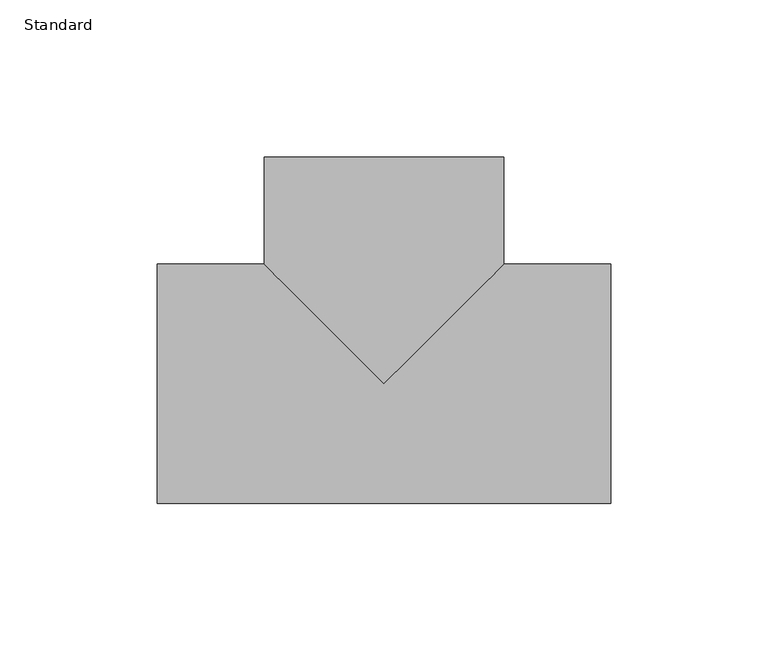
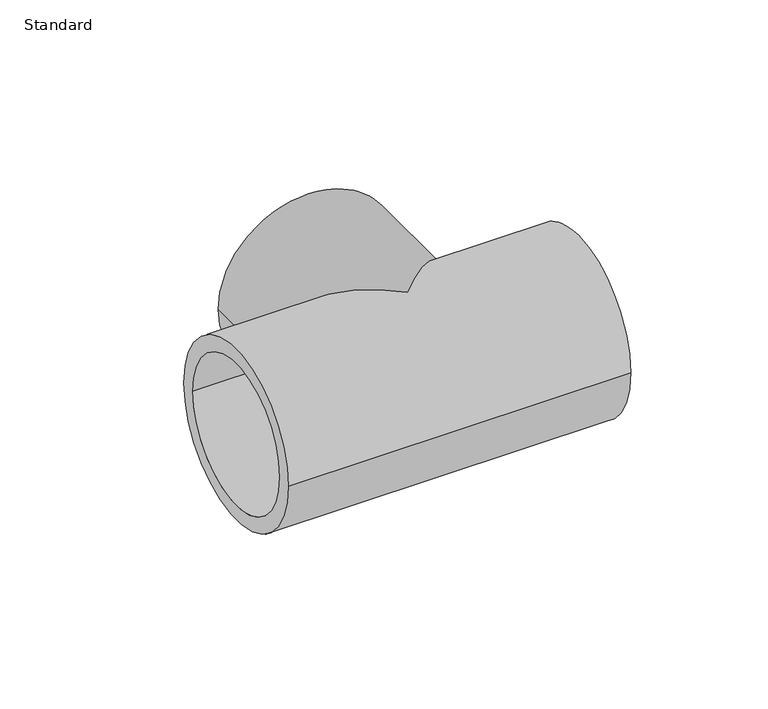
"""IFC4 building model written with IfcOpenShell, lengths in millimetres: pipe fitting geometry, Durapipe_PipeFitting_PVC_Tee90degEqual : Standard."""

from ifc_helpers import new_model, si_unit, frame, origin, place, context, project, spatial, polyline, circle_curve, ellipse_curve, source, transform, mapped, element, save
from ifc_brep_helpers import plane_surface, cylinder_surface, revolved_surface, advanced_brep


def standard_e05e3457(model_context):
    return source(origin(), model_context, "Body", "AdvancedBrep", [
        advanced_brep(
        [(-38.0, 72.0, 0.0), (38.0, 72.0, 0.0), (-31.5, 72.0, 0.0), (31.5, 72.0, 0.0), (-38.0, 38.0, 0.0), (0.0, 0.0, 38.0), (38.0, 38.0, 0.0), (0.0, 0.0, -38.0), (-72.0, -38.0, 0.0), (-72.0, 38.0, 0.0), (-72.0, -31.5, 0.0), (-72.0, 31.5, 0.0), (72.0, -38.0, 0.0), (72.0, 38.0, 0.0), (72.0, 31.5, 0.0), (72.0, -31.5, 0.0), (31.5, 34.0, 0.0), (-31.5, 34.0, 0.0), (0.0, 34.0, 0.0), (34.0, -31.5, 0.0), (34.0, 31.5, 0.0), (34.0, 0.0, 0.0), (-34.0, -31.5, 0.0), (-34.0, 31.5, 0.0), (-34.0, 0.0, 0.0)],
        [
            (0, 1, circle_curve(frame((0.0, 72.0, 0.0), z_axis=(0.0, 1.0, 0.0), x_axis=(1.0, 0.0, 0.0)), 38.0)),
            (1, 0, circle_curve(frame((0.0, 72.0, 0.0), z_axis=(0.0, 1.0, 0.0), x_axis=(1.0, 0.0, 0.0)), 38.0)),
            (2, 3, circle_curve(frame((0.0, 72.0, 0.0), z_axis=(0.0, -1.0, 0.0), x_axis=(-1.0, 0.0, 0.0)), 31.5)),
            (3, 2, circle_curve(frame((0.0, 72.0, 0.0), z_axis=(0.0, -1.0, 0.0), x_axis=(-1.0, 0.0, 0.0)), 31.5)),
            (0, 4),
            (4, 5, ellipse_curve(frame((0.0, 0.0, 0.0), z_axis=(0.7071067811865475, 0.7071067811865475, 0.0), x_axis=(-0.7071067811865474, 0.7071067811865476, 0.0)), 53.7401154, 38.0)),
            (5, 6, ellipse_curve(frame((0.0, 0.0, 0.0), z_axis=(-0.7071067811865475, 0.7071067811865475, 0.0), x_axis=(0.7071067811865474, 0.7071067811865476, 0.0)), 53.7401154, 38.0)),
            (6, 1),
            (6, 7, ellipse_curve(frame((0.0, 0.0, 0.0), z_axis=(-0.7071067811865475, 0.7071067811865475, 0.0), x_axis=(0.7071067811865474, 0.7071067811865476, 0.0)), 53.7401154, 38.0)),
            (7, 4, ellipse_curve(frame((0.0, 0.0, 0.0), z_axis=(0.7071067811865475, 0.7071067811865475, 0.0), x_axis=(-0.7071067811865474, 0.7071067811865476, 0.0)), 53.7401154, 38.0)),
            (8, 9, circle_curve(frame((-72.0, 0.0, 0.0), z_axis=(-1.0, 0.0, 0.0), x_axis=(0.0, 1.0, 0.0)), 38.0)),
            (9, 8, circle_curve(frame((-72.0, 0.0, 0.0), z_axis=(-1.0, 0.0, 0.0), x_axis=(0.0, 1.0, 0.0)), 38.0)),
            (10, 11, circle_curve(frame((-72.0, 0.0, 0.0), z_axis=(1.0, 0.0, 0.0), x_axis=(0.0, 1.0, 0.0)), 31.5)),
            (11, 10, circle_curve(frame((-72.0, 0.0, 0.0), z_axis=(1.0, 0.0, 0.0), x_axis=(0.0, 1.0, 0.0)), 31.5)),
            (12, 13, circle_curve(frame((72.0, 0.0, 0.0), z_axis=(1.0, 0.0, 0.0), x_axis=(0.0, 1.0, 0.0)), 38.0)),
            (13, 12, circle_curve(frame((72.0, 0.0, 0.0), z_axis=(1.0, 0.0, 0.0), x_axis=(0.0, 1.0, 0.0)), 38.0)),
            (14, 15, circle_curve(frame((72.0, 0.0, 0.0), z_axis=(-1.0, 0.0, 0.0), x_axis=(0.0, 1.0, 0.0)), 31.5)),
            (15, 14, circle_curve(frame((72.0, 0.0, 0.0), z_axis=(-1.0, 0.0, 0.0), x_axis=(0.0, 1.0, 0.0)), 31.5)),
            (8, 12),
            (13, 6),
            (4, 9),
            (16, 3),
            (2, 17),
            (17, 16, circle_curve(frame((0.0, 34.0, 0.0), z_axis=(0.0, -1.0, 0.0), x_axis=(-1.0, 0.0, 0.0)), 31.5)),
            (16, 17, circle_curve(frame((0.0, 34.0, 0.0), z_axis=(0.0, -1.0, 0.0), x_axis=(-1.0, 0.0, 0.0)), 31.5)),
            (17, 18),
            (18, 16),
            (19, 15),
            (14, 20),
            (20, 19, circle_curve(frame((34.0, 0.0, 0.0), z_axis=(-1.0, 0.0, 0.0), x_axis=(0.0, 1.0, 0.0)), 31.5)),
            (19, 20, circle_curve(frame((34.0, 0.0, 0.0), z_axis=(-1.0, 0.0, 0.0), x_axis=(0.0, 1.0, 0.0)), 31.5)),
            (20, 21),
            (21, 19),
            (10, 22),
            (22, 23, circle_curve(frame((-34.0, 0.0, 0.0), z_axis=(1.0, 0.0, 0.0), x_axis=(0.0, 1.0, 0.0)), 31.5)),
            (23, 11),
            (23, 22, circle_curve(frame((-34.0, 0.0, 0.0), z_axis=(1.0, 0.0, 0.0), x_axis=(0.0, 1.0, 0.0)), 31.5)),
            (22, 24),
            (24, 23),
        ],
        [
            plane_surface(frame((0.0, 72.0, 0.0), z_axis=(0.0, 1.0, 0.0), x_axis=(0.0, 0.0, 1.0))),
            cylinder_surface(frame((0.0, 72.0, 0.0), z_axis=(0.0, 1.0, 0.0), x_axis=(1.0, 0.0, 0.0)), 38.0),
            plane_surface(frame((-72.0, 0.0, 0.0), z_axis=(-1.0, 0.0, 0.0), x_axis=(0.0, 0.0, 1.0))),
            plane_surface(frame((72.0, 0.0, 0.0), z_axis=(1.0, 0.0, 0.0), x_axis=(0.0, 0.0, 1.0))),
            cylinder_surface(frame((-72.0, 0.0, 0.0), z_axis=(-1.0, 0.0, 0.0), x_axis=(0.0, 1.0, 0.0)), 38.0),
            revolved_surface(polyline([(-31.5, 34.0, 0.0), (-31.5, 72.0, 0.0)]), (0.0, 2047.0, 0.0), (0.0, -1.0, 0.0)),
            plane_surface(frame((0.0, 34.0, 0.0), z_axis=(0.0, 1.0, 0.0), x_axis=(-1.0, 0.0, 0.0))),
            revolved_surface(polyline([(34.0, 31.5, 0.0), (72.0, 31.5, 0.0)]), (2048.5, 0.0, 0.0), (-1.0, 0.0, 0.0)),
            plane_surface(frame((34.0, 0.0, 0.0), z_axis=(1.0, 0.0, 0.0), x_axis=(0.0, 1.0, 0.0))),
            revolved_surface(polyline([(-72.0, 31.5, 0.0), (-34.0, 31.5, 0.0)]), (2048.5, 0.0, 0.0), (-1.0, 0.0, 0.0)),
            plane_surface(frame((-34.0, 0.0, 0.0), z_axis=(-1.0, 0.0, 0.0), x_axis=(0.0, 1.0, 0.0))),
        ],
        [
            (0, [[1, 2], [3, 4]]),
            (1, [[-1, 5, 6, 7, 8]]),
            (1, [[-2, -8, 9, 10, -5]]),
            (2, [[11, 12], [13, 14]]),
            (3, [[15, 16], [17, 18]]),
            (4, [[-11, 19, -16, 20, -7, -6, 21]]),
            (4, [[-12, -21, -10, -9, -20, -15, -19]]),
            (5, [[22, -3, 23, 24]]),
            (5, [[-22, 25, -23, -4]]),
            (6, [[-24, 26, 27]]),
            (6, [[-25, -27, -26]]),
            (7, [[28, -17, 29, 30]]),
            (7, [[-28, 31, -29, -18]]),
            (8, [[-30, 32, 33]]),
            (8, [[-31, -33, -32]]),
            (9, [[34, 35, 36, -13]]),
            (9, [[-34, -14, -36, 37]]),
            (10, [[-35, 38, 39]]),
            (10, [[-37, -39, -38]]),
        ],
    ),
    ])


if __name__ == "__main__":
    model = new_model("IFC4")
    model_context = context("Model", 3, world=origin())
    ifc_project = project(units=[si_unit("LENGTHUNIT", "METRE", prefix="MILLI")], contexts=[model_context])
    site = spatial("IfcSite", under=ifc_project)
    building = spatial("IfcBuilding", under=site)
    placement = place(None, origin())
    standard_shape = standard_e05e3457(model_context)
    element("IfcPipeFitting", 1, ObjectType="Durapipe_PipeFitting_PVC_Tee90degEqual : Standard", at=placement, inside=building, context=model_context, shape_type="MappedRepresentation", body=[
        mapped(standard_shape, transform((0.0, 0.0, 0.0), x_axis=(1.0, 0.0, 0.0), y_axis=(0.0, 1.0, 0.0), z_axis=(0.0, 0.0, 1.0))),
    ])
    save(model, "model.ifc")
